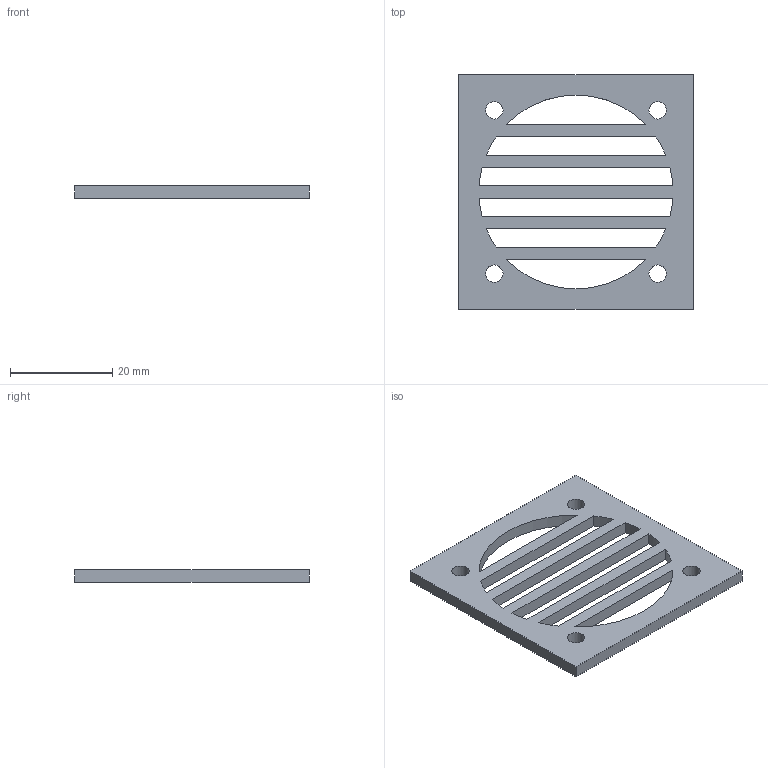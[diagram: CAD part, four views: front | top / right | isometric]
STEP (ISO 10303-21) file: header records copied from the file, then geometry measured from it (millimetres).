
FILE_DESCRIPTION(('Open CASCADE Model'),'2;1');
FILE_NAME('Open CASCADE Shape Model','2026-07-26T23:16:42',('Author'),( 'Open CASCADE'),'Open CASCADE STEP processor 7.9','Open CASCADE 7.9' ,'Unknown');
FILE_SCHEMA(('AUTOMOTIVE_DESIGN { 1 0 10303 214 1 1 1 1 }'));
Length unit declared in the file: millimetre
Products named in the file (1): Open CASCADE STEP translator 7.9 3
Bounding box: 46 x 46 x 2.4 mm (x, y, z)
Volume: 3241.9 mm3; surface area: 4275.2 mm2
Topology: 1 solids, 1 shells, 30 faces, 84 edges, 56 vertices
Faces by surface type: plane 16, cylinder 14
Full cylindrical faces by diameter (mm): 3.4 x4
Entity records: 2135 total; most frequent: CARTESIAN_POINT 493, DIRECTION 283, ORIENTED_EDGE 168, PCURVE 168, DEFINITIONAL_REPRESENTATION 168, LINE 156, VECTOR 156, EDGE_CURVE 84
